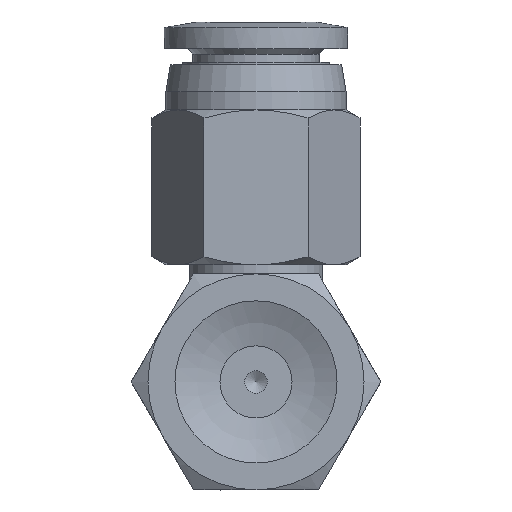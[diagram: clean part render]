
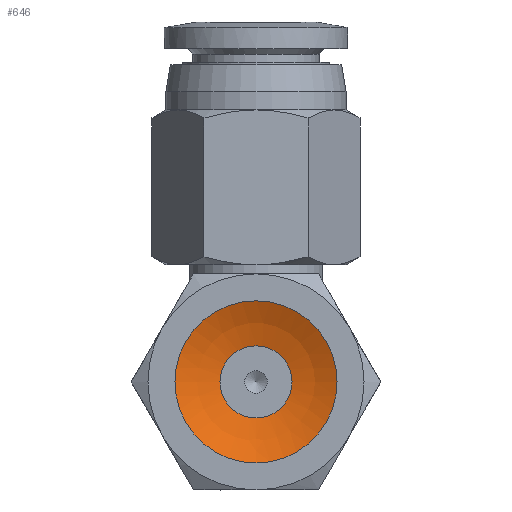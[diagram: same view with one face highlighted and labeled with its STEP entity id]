
A CAD part, front view. The second image highlights one B-rep face of the part: STEP entity #646.
In plain terms, the highlighted spherical face has radius 10.203 mm.
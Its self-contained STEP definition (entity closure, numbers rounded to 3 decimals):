
#646=ADVANCED_FACE('',(#1031,#1032),#1033,.F.);
#1031=FACE_OUTER_BOUND('',#1495,.T.);
#1032=FACE_OUTER_BOUND('',#1496,.T.);
#1033=SPHERICAL_SURFACE('',#1497,10.203);
#1495=EDGE_LOOP('',(#2695));
#1496=EDGE_LOOP('',(#2696));
#1497=AXIS2_PLACEMENT_3D('',#2697,#2698,#2699);
#2695=ORIENTED_EDGE('',*,*,#3232,.T.);
#2696=ORIENTED_EDGE('',*,*,#3245,.F.);
#2697=CARTESIAN_POINT('',(0.,-9.157,0.));
#2698=DIRECTION('',(0.0,-1.0,0.));
#2699=DIRECTION('',(1.0,0.0,0.0));
#3232=EDGE_CURVE('',#3691,#3691,#3692,.T.);
#3245=EDGE_CURVE('',#3717,#3717,#3718,.T.);
#3691=VERTEX_POINT('',#4807);
#3692=CIRCLE('',#4808,4.5);
#3717=VERTEX_POINT('',#4833);
#3718=CIRCLE('',#4834,2.);
#4807=CARTESIAN_POINT('',(0.0,0.,-4.5));
#4808=AXIS2_PLACEMENT_3D('',#5621,#5622,#5623);
#4833=CARTESIAN_POINT('',(0.0,0.848,-2.));
#4834=AXIS2_PLACEMENT_3D('',#5660,#5661,#5662);
#5621=CARTESIAN_POINT('',(0.0,0.,0.0));
#5622=DIRECTION('',(0.0,-1.0,0.));
#5623=DIRECTION('',(0.0,0.,-1.0));
#5660=CARTESIAN_POINT('',(0.0,0.848,0.0));
#5661=DIRECTION('',(0.0,-1.0,0.));
#5662=DIRECTION('',(0.0,0.,-1.0));
